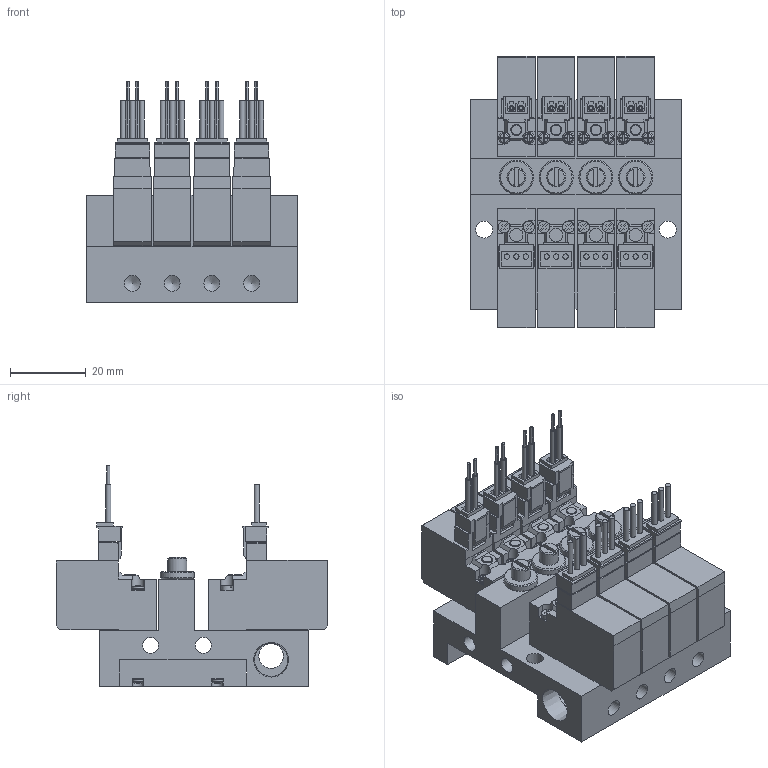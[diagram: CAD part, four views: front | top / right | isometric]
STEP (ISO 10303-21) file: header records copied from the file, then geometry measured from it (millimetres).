
FILE_DESCRIPTION(('STEP AP203'),'1');
FILE_NAME('1-L-4EZ-M04.stp','2025-05-09T01:23:37',(' '),(' '),'Spatial InterOp 3D',' ',' ');
FILE_SCHEMA(('CONFIG_CONTROL_DESIGN'));
Length unit declared in the file: millimetre
Products named in the file (46): PV1※1-L-4EZ-M04; BODY; PLATE; NEEDLE; BOLT; SOLENOID VALVE VOLTAGE PV; 42; 45; 48; 51; SOLENOID VALVE PV101-W
Assembly tree (45 placements, depth 3):
  PV1※1-L-4EZ-M04
    BODY
    PLATE
    PLATE
    NEEDLE
    BOLT
    BOLT
    BOLT
    BOLT
    BOLT
    BOLT
    SOLENOID VALVE VOLTAGE PV
      42
      45
      48
      51
    NEEDLE
    SOLENOID VALVE VOLTAGE PV
      42
      45
      48
      51
    NEEDLE
    SOLENOID VALVE VOLTAGE PV
      42
      45
      48
      51
    PLATE
    BOLT
    BOLT
    BOLT
    PLATE
    BOLT
    BOLT
    BOLT
    NEEDLE
    SOLENOID VALVE VOLTAGE PV
      42
      45
      48
      51
    SOLENOID VALVE PV101-W
    SOLENOID VALVE PV101-W
    SOLENOID VALVE PV101-W
    SOLENOID VALVE PV101-W
Bounding box: 55.5 x 71.8 x 58.25 mm (x, y, z)
Volume: 86420.5 mm3; surface area: 44392.5 mm2
Topology: 41 solids, 41 shells, 1569 faces, 4378 edges, 2985 vertices
Faces by surface type: plane 1164, cylinder 275, torus 64, bspline 40, cone 26
Full cylindrical faces by diameter (mm): 1.4 x12, 2 x12, 3 x20, 3.5 x4, 4.2 x10, 4.5 x2, 5 x4, 6.5 x1, 8.797 x2, 9 x4
Entity records: 52502 total; most frequent: CARTESIAN_POINT 9543, DIRECTION 8502, ORIENTED_EDGE 8392, EDGE_CURVE 4196, VERTEX_POINT 2920, LINE 2856, VECTOR 2856, AXIS2_PLACEMENT_3D 2823
